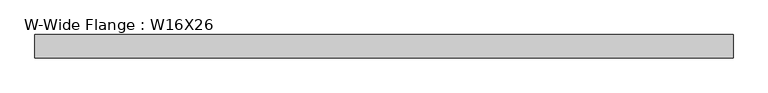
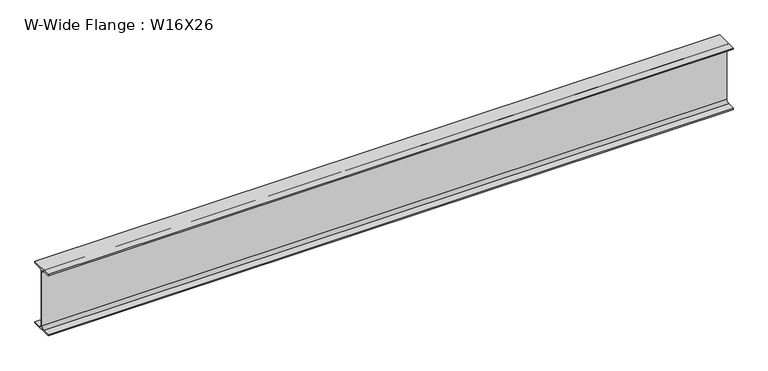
"""IFC4 building model written with IfcOpenShell, lengths in millimetres: beam geometry, W-Wide Flange : W16X26."""

from ifc_helpers import new_model, si_unit, point, frame, frame_2d, origin, place, context, project, spatial, polyline, circle_curve, trimmed, segment, composite_curve, outline, extrude, source, transform, mapped, element, save


def w_wide_flange_w16x26_9c3d3023(model_context):
    return source(origin(), model_context, "Body", "SweptSolid", [
        extrude(outline(composite_curve([segment(polyline([(69.85, -190.5496094), (69.85, -199.2808594), (-69.85, -199.2808594), (-69.85, -190.5496094), (-21.43125, -190.5496094)]), True, "CONTINUOUS"), segment(trimmed(circle_curve(frame_2d((-21.43125, -172.2933594)), 18.25625), [point((-21.43125, -190.5496094))], [point((-3.175, -172.2933594))], True, "CARTESIAN"), True, "CONTINUOUS"), segment(polyline([(-3.175, -172.2933594), (-3.175, 172.2933594)]), True, "CONTINUOUS"), segment(trimmed(circle_curve(frame_2d((-21.43125, 172.2933594)), 18.25625), [point((-3.175, 172.2933594))], [point((-21.43125, 190.5496094))], True, "CARTESIAN"), True, "CONTINUOUS"), segment(polyline([(-21.43125, 190.5496094), (-69.85, 190.5496094), (-69.85, 199.2808594), (69.85, 199.2808594), (69.85, 190.5496094), (21.43125, 190.5496094)]), True, "CONTINUOUS"), segment(trimmed(circle_curve(frame_2d((21.43125, 172.2933594)), 18.25625), [point((21.43125, 190.5496094))], [point((3.175, 172.2933594))], True, "CARTESIAN"), True, "CONTINUOUS"), segment(polyline([(3.175, 172.2933594), (3.175, -172.2933594)]), True, "CONTINUOUS"), segment(trimmed(circle_curve(frame_2d((21.43125, -172.2933594)), 18.25625), [point((3.175, -172.2933594))], [point((21.43125, -190.5496094))], True, "CARTESIAN"), True, "CONTINUOUS"), segment(polyline([(21.43125, -190.5496094), (69.85, -190.5496094)]), True, "CONTINUOUS")], self_intersect=False)), frame((-2093.9323855, 0.0, 0.0), z_axis=(1.0, 0.0, 0.0), x_axis=(0.0, 1.0, 0.0)), (0.0, 0.0, 1.0), 4191.0),
    ])


if __name__ == "__main__":
    model = new_model("IFC4")
    model_context = context("Model", 3, world=origin())
    ifc_project = project(units=[si_unit("LENGTHUNIT", "METRE", prefix="MILLI")], contexts=[model_context])
    site = spatial("IfcSite", under=ifc_project)
    building = spatial("IfcBuilding", under=site)
    placement = place(None, origin())
    w_wide_flange_w16x26_shape = w_wide_flange_w16x26_9c3d3023(model_context)
    element("IfcBeam", 1, ObjectType="W-Wide Flange : W16X26", at=placement, inside=building, context=model_context, shape_type="MappedRepresentation", body=[
        mapped(w_wide_flange_w16x26_shape, transform((0.0, 0.0, 0.0), x_axis=(1.0, 0.0, 0.0), y_axis=(0.0, 1.0, 0.0), z_axis=(0.0, 0.0, 1.0))),
    ])
    save(model, "model.ifc")
